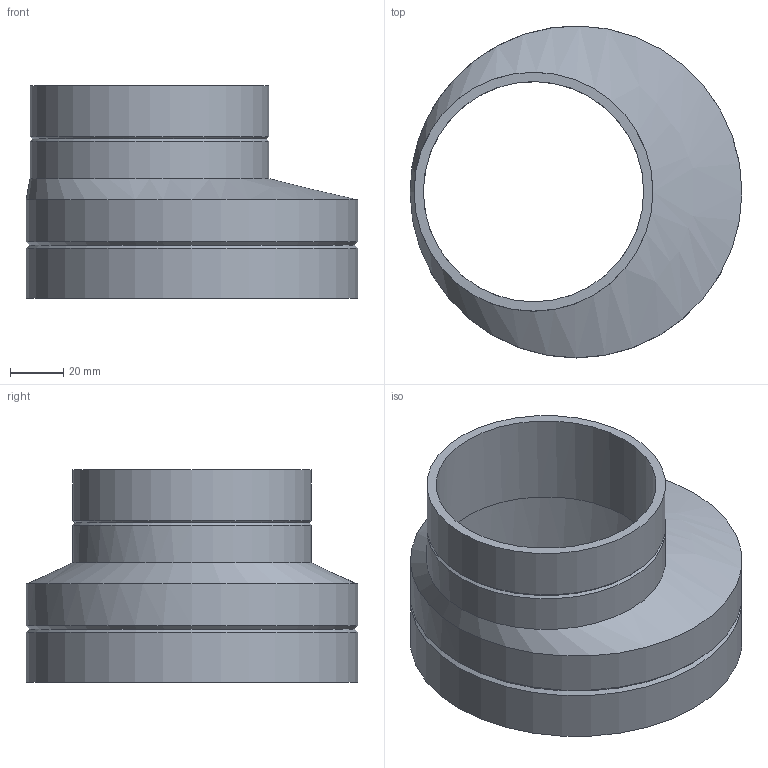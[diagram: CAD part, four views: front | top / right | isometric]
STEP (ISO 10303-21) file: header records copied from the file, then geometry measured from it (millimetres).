
FILE_DESCRIPTION(/* description */ (''),/* implementation_level */ '2;1');
FILE_NAME(/* name */ 'Z:\Geberit\Export\NewStep\368581.stp',/* time_stamp */ '2014-04-02T08:01:01+02:00',/* author */ ('nelson'),/* organization */ (''),/* preprocessor_version */ 'ST-DEVELOPER v15.2',/* originating_system */ 'Autodesk Inventor 2014',/* authorisation */ '');
FILE_SCHEMA (('AUTOMOTIVE_DESIGN { 1 0 10303 214 3 1 1 }'));
Length unit declared in the file: millimetre
Products named in the file (1): 368581
Bounding box: 125 x 125 x 80 mm (x, y, z)
Volume: 111843.6 mm3; surface area: 63091.3 mm2
Topology: 1 solids, 1 shells, 14 faces, 34 edges, 22 vertices
Faces by surface type: cylinder 6, cone 4, bspline 2, plane 2
Full cylindrical faces by diameter (mm): 83 x1, 90 x2, 115.2 x1, 125 x2
Entity records: 397 total; most frequent: CARTESIAN_POINT 89, DIRECTION 62, ORIENTED_EDGE 40, AXIS2_PLACEMENT_3D 31, EDGE_LOOP 26, EDGE_CURVE 20, CIRCLE 18, VERTEX_POINT 18
